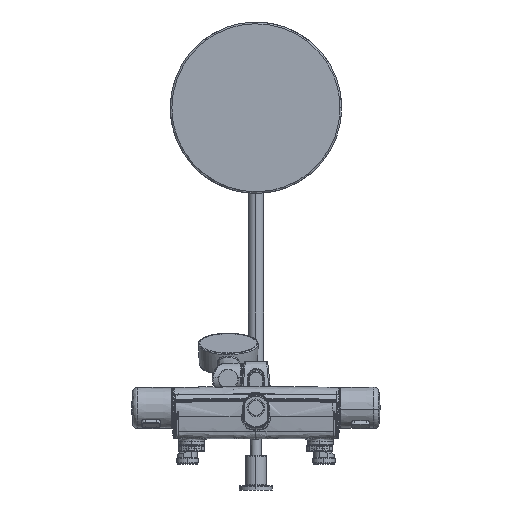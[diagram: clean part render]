
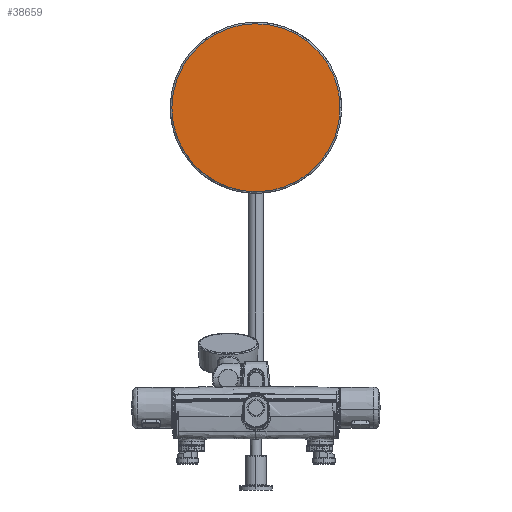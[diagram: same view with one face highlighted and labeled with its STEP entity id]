
A CAD part, front view. The second image highlights one B-rep face of the part: STEP entity #38659.
In plain terms, the highlighted planar face has unit normal (0, -1, 0).
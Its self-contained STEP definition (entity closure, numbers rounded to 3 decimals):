
#1442 = VERTEX_POINT ( 'NONE', #44466 ) ;
#1638 = CARTESIAN_POINT ( 'NONE',  ( -31.577, 984.9, 442.995 ) ) ;
#2416 = CARTESIAN_POINT ( 'NONE',  ( 64.761, 984.9, 423.832 ) ) ;
#2609 = CARTESIAN_POINT ( 'NONE',  ( 94.866, 984.9, 375.41 ) ) ;
#3928 = CARTESIAN_POINT ( 'NONE',  ( 73.832, 984.9, 285.239 ) ) ;
#4121 = CARTESIAN_POINT ( 'NONE',  ( -25.41, 984.9, 255.134 ) ) ;
#6323 = CARTESIAN_POINT ( 'NONE',  ( -6.414, 984.9, 448. ) ) ;
#7105 = CARTESIAN_POINT ( 'NONE',  ( 85.048, 984.9, 399.113 ) ) ;
#7241 = B_SPLINE_CURVE_WITH_KNOTS ( 'NONE', 3,
 ( #28379, #52859, #10820, #48146, #39379, #20778, #20586, #11406, #57535, #20203, #29570, #16085, #25476, #1638, #34278, #39015, #6323, #11013, #15707, #20390, #53052, #25099, #35251, #21380, #2416, #44414, #39980, #7105, #40364, #21573, #2609, #7291, #54402, #25870 ),
 .UNSPECIFIED., .F., .F.,
 ( 4, 2, 2, 2, 2, 2, 2, 2, 2, 2, 2, 2, 2, 2, 2, 2, 4 ),
 ( 0.5, 0.531, 0.563, 0.594, 0.625, 0.656, 0.688, 0.719, 0.75, 0.781, 0.813, 0.844, 0.875, 0.906, 0.938, 0.969, 1. ),
 .UNSPECIFIED. ) ;
#7291 = CARTESIAN_POINT ( 'NONE',  ( 97.368, 984.9, 362.828 ) ) ;
#8589 = CARTESIAN_POINT ( 'NONE',  ( 59.779, 984.9, 272.079 ) ) ;
#10820 = CARTESIAN_POINT ( 'NONE',  ( -97.368, 984.9, 362.828 ) ) ;
#11013 = CARTESIAN_POINT ( 'NONE',  ( 6.414, 984.9, 448. ) ) ;
#11150 = ORIENTED_EDGE ( 'NONE', *, *, #22858, .F. ) ;
#11406 = CARTESIAN_POINT ( 'NONE',  ( -77.921, 984.9, 409.779 ) ) ;
#13481 = CARTESIAN_POINT ( 'NONE',  ( 98., 984.9, 350. ) ) ;
#13884 = CARTESIAN_POINT ( 'NONE',  ( 85.048, 984.9, 300.887 ) ) ;
#14305 = CARTESIAN_POINT ( 'NONE',  ( -97.368, 984.9, 337.172 ) ) ;
#15179 = EDGE_CURVE ( 'NONE', #18898, #1442, #26753, .T. ) ;
#15707 = CARTESIAN_POINT ( 'NONE',  ( 12.828, 984.9, 447.368 ) ) ;
#16085 = CARTESIAN_POINT ( 'NONE',  ( -49.113, 984.9, 435.048 ) ) ;
#16624 = CARTESIAN_POINT ( 'NONE',  ( 98., 984.9, 350. ) ) ;
#17219 = AXIS2_PLACEMENT_3D ( 'NONE', #27127, #36113, #22437 ) ;
#18898 = VERTEX_POINT ( 'NONE', #16624 ) ;
#20203 = CARTESIAN_POINT ( 'NONE',  ( -64.761, 984.9, 423.832 ) ) ;
#20390 = CARTESIAN_POINT ( 'NONE',  ( 25.41, 984.9, 444.866 ) ) ;
#20586 = CARTESIAN_POINT ( 'NONE',  ( -85.048, 984.9, 399.113 ) ) ;
#20778 = CARTESIAN_POINT ( 'NONE',  ( -88.086, 984.9, 393.429 ) ) ;
#21380 = CARTESIAN_POINT ( 'NONE',  ( 59.779, 984.9, 427.921 ) ) ;
#21573 = CARTESIAN_POINT ( 'NONE',  ( 92.995, 984.9, 381.577 ) ) ;
#22437 = DIRECTION ( 'NONE',  ( 1., 0., 0. ) ) ;
#22684 = CARTESIAN_POINT ( 'NONE',  ( 64.761, 984.9, 276.168 ) ) ;
#22858 = EDGE_CURVE ( 'NONE', #1442, #18898, #7241, .T. ) ;
#22897 = CARTESIAN_POINT ( 'NONE',  ( 49.113, 984.9, 264.952 ) ) ;
#23090 = CARTESIAN_POINT ( 'NONE',  ( 98., 984.9, 343.586 ) ) ;
#25066 = ORIENTED_EDGE ( 'NONE', *, *, #15179, .F. ) ;
#25099 = CARTESIAN_POINT ( 'NONE',  ( 43.429, 984.9, 438.086 ) ) ;
#25127 = CARTESIAN_POINT ( 'NONE',  ( -77.921, 984.9, 290.221 ) ) ;
#25476 = CARTESIAN_POINT ( 'NONE',  ( -43.429, 984.9, 438.086 ) ) ;
#25870 = CARTESIAN_POINT ( 'NONE',  ( 98., 984.9, 350. ) ) ;
#26753 = B_SPLINE_CURVE_WITH_KNOTS ( 'NONE', 3,
 ( #13481, #23090, #50425, #32060, #55094, #27162, #13884, #59807, #3928, #22684, #8589, #22897, #55301, #32260, #46330, #41644, #55725, #60429, #27370, #4121, #55505, #37178, #32475, #38844, #39045, #57759, #25127, #56342, #51676, #28601, #28387, #14305, #29795, #48174 ),
 .UNSPECIFIED., .F., .F.,
 ( 4, 2, 2, 2, 2, 2, 2, 2, 2, 2, 2, 2, 2, 2, 2, 2, 4 ),
 ( 0., 0.031, 0.063, 0.094, 0.125, 0.156, 0.188, 0.219, 0.25, 0.281, 0.312, 0.344, 0.375, 0.406, 0.437, 0.469, 0.5 ),
 .UNSPECIFIED. ) ;
#27127 = CARTESIAN_POINT ( 'NONE',  ( 0., 984.9, 350. ) ) ;
#27162 = CARTESIAN_POINT ( 'NONE',  ( 88.086, 984.9, 306.571 ) ) ;
#27370 = CARTESIAN_POINT ( 'NONE',  ( -12.828, 984.9, 252.632 ) ) ;
#28379 = CARTESIAN_POINT ( 'NONE',  ( -98., 984.9, 350. ) ) ;
#28387 = CARTESIAN_POINT ( 'NONE',  ( -94.866, 984.9, 324.59 ) ) ;
#28601 = CARTESIAN_POINT ( 'NONE',  ( -92.995, 984.9, 318.423 ) ) ;
#29570 = CARTESIAN_POINT ( 'NONE',  ( -59.779, 984.9, 427.921 ) ) ;
#29795 = CARTESIAN_POINT ( 'NONE',  ( -98., 984.9, 343.586 ) ) ;
#32060 = CARTESIAN_POINT ( 'NONE',  ( 94.866, 984.9, 324.59 ) ) ;
#32260 = CARTESIAN_POINT ( 'NONE',  ( 31.577, 984.9, 257.005 ) ) ;
#32475 = CARTESIAN_POINT ( 'NONE',  ( -49.113, 984.9, 264.952 ) ) ;
#34278 = CARTESIAN_POINT ( 'NONE',  ( -25.41, 984.9, 444.866 ) ) ;
#35251 = CARTESIAN_POINT ( 'NONE',  ( 49.113, 984.9, 435.048 ) ) ;
#36113 = DIRECTION ( 'NONE',  ( 0., 1., 0. ) ) ;
#37178 = CARTESIAN_POINT ( 'NONE',  ( -43.429, 984.9, 261.914 ) ) ;
#38659 = ADVANCED_FACE ( 'NONE', ( #56384 ), #45871, .F. ) ;
#38844 = CARTESIAN_POINT ( 'NONE',  ( -59.779, 984.9, 272.079 ) ) ;
#39015 = CARTESIAN_POINT ( 'NONE',  ( -12.828, 984.9, 447.368 ) ) ;
#39045 = CARTESIAN_POINT ( 'NONE',  ( -64.761, 984.9, 276.168 ) ) ;
#39379 = CARTESIAN_POINT ( 'NONE',  ( -92.995, 984.9, 381.577 ) ) ;
#39980 = CARTESIAN_POINT ( 'NONE',  ( 77.921, 984.9, 409.779 ) ) ;
#40364 = CARTESIAN_POINT ( 'NONE',  ( 88.086, 984.9, 393.429 ) ) ;
#41644 = CARTESIAN_POINT ( 'NONE',  ( 12.828, 984.9, 252.632 ) ) ;
#44414 = CARTESIAN_POINT ( 'NONE',  ( 73.832, 984.9, 414.761 ) ) ;
#44466 = CARTESIAN_POINT ( 'NONE',  ( -98., 984.9, 350. ) ) ;
#45871 = PLANE ( 'NONE',  #17219 ) ;
#46330 = CARTESIAN_POINT ( 'NONE',  ( 25.41, 984.9, 255.134 ) ) ;
#48146 = CARTESIAN_POINT ( 'NONE',  ( -94.866, 984.9, 375.41 ) ) ;
#48174 = CARTESIAN_POINT ( 'NONE',  ( -98., 984.9, 350. ) ) ;
#50425 = CARTESIAN_POINT ( 'NONE',  ( 97.368, 984.9, 337.172 ) ) ;
#51676 = CARTESIAN_POINT ( 'NONE',  ( -88.086, 984.9, 306.571 ) ) ;
#51859 = EDGE_LOOP ( 'NONE', ( #25066, #11150 ) ) ;
#52859 = CARTESIAN_POINT ( 'NONE',  ( -98., 984.9, 356.414 ) ) ;
#53052 = CARTESIAN_POINT ( 'NONE',  ( 31.577, 984.9, 442.995 ) ) ;
#54402 = CARTESIAN_POINT ( 'NONE',  ( 98., 984.9, 356.414 ) ) ;
#55094 = CARTESIAN_POINT ( 'NONE',  ( 92.995, 984.9, 318.423 ) ) ;
#55301 = CARTESIAN_POINT ( 'NONE',  ( 43.429, 984.9, 261.914 ) ) ;
#55505 = CARTESIAN_POINT ( 'NONE',  ( -31.577, 984.9, 257.005 ) ) ;
#55725 = CARTESIAN_POINT ( 'NONE',  ( 6.414, 984.9, 252. ) ) ;
#56342 = CARTESIAN_POINT ( 'NONE',  ( -85.048, 984.9, 300.887 ) ) ;
#56384 = FACE_OUTER_BOUND ( 'NONE', #51859, .T. ) ;
#57535 = CARTESIAN_POINT ( 'NONE',  ( -73.832, 984.9, 414.761 ) ) ;
#57759 = CARTESIAN_POINT ( 'NONE',  ( -73.832, 984.9, 285.239 ) ) ;
#59807 = CARTESIAN_POINT ( 'NONE',  ( 77.921, 984.9, 290.221 ) ) ;
#60429 = CARTESIAN_POINT ( 'NONE',  ( -6.414, 984.9, 252. ) ) ;
